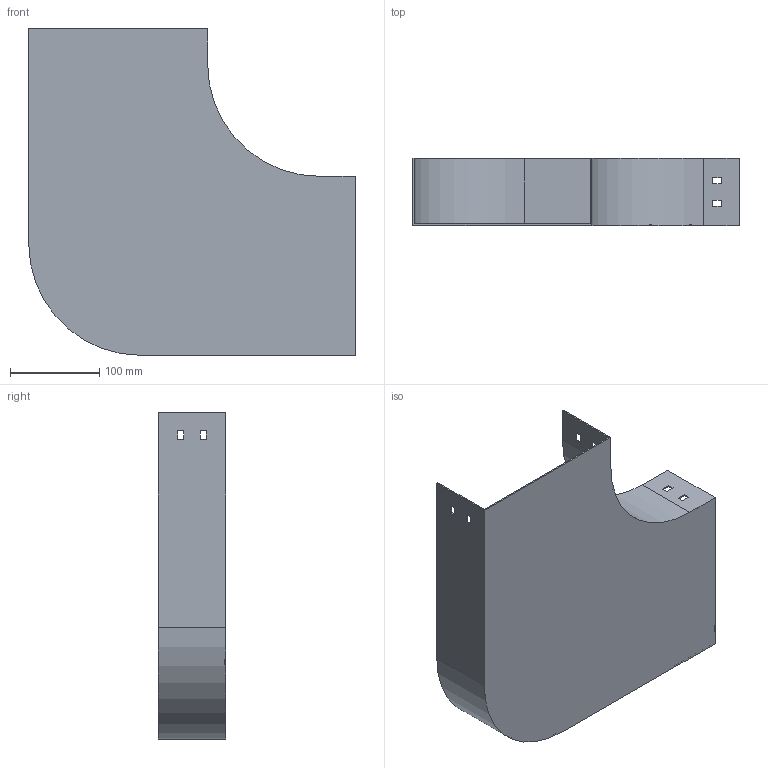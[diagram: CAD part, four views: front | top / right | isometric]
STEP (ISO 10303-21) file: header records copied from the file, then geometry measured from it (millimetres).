
FILE_DESCRIPTION (( 'STEP AP214' ), '1' );
FILE_NAME ('P9_207.step', '2025-07-16T09:20:41', ( '' ), ( '' ), 'SwSTEP 2.0', 'SolidWorks 2023', '' );
FILE_SCHEMA (( 'AUTOMOTIVE_DESIGN' ));
Length unit declared in the file: millimetre
Products named in the file (1): P9_207
Bounding box: 365 x 75 x 365 mm (x, y, z)
Volume: 263195.1 mm3; surface area: 353804.8 mm2
Topology: 1 solids, 1 shells, 50 faces, 144 edges, 96 vertices
Faces by surface type: plane 46, cylinder 4
Entity records: 1671 total; most frequent: CARTESIAN_POINT 291, ORIENTED_EDGE 288, DIRECTION 254, EDGE_CURVE 144, LINE 136, VECTOR 136, VERTEX_POINT 96, EDGE_LOOP 66
